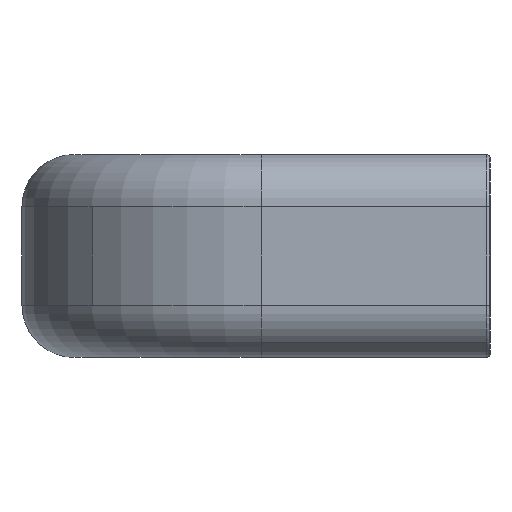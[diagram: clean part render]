
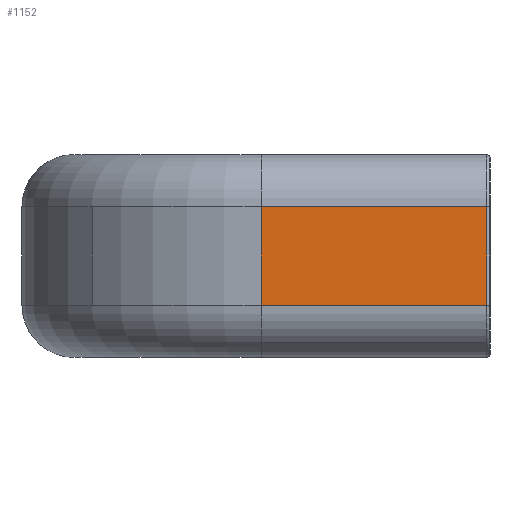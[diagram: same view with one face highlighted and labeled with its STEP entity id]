
A CAD part, left-side view. The second image highlights one B-rep face of the part: STEP entity #1152.
In plain terms, the highlighted planar face has unit normal (-1, 0, 0).
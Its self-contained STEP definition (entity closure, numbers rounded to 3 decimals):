
#896=CARTESIAN_POINT('',(-130.0,0.3,-4.5));
#897=VERTEX_POINT('',#896);
#905=CARTESIAN_POINT('',(-130.0,22.,-4.5));
#906=VERTEX_POINT('',#905);
#907=CARTESIAN_POINT('',(-130.0,22.,-4.5));
#908=DIRECTION('',(0.0,-1.0,0.0));
#909=VECTOR('',#908,21.7);
#910=LINE('',#907,#909);
#911=EDGE_CURVE('',#906,#897,#910,.T.);
#985=CARTESIAN_POINT('',(-130.0,22.,5.));
#986=VERTEX_POINT('',#985);
#987=CARTESIAN_POINT('',(-130.0,22.,-4.5));
#988=DIRECTION('',(0.0,0.0,1.0));
#989=VECTOR('',#988,9.5);
#990=LINE('',#987,#989);
#991=EDGE_CURVE('',#906,#986,#990,.T.);
#1129=CARTESIAN_POINT('',(-130.0,-0.785,5.475));
#1130=DIRECTION('',(1.0,0.0,0.0));
#1131=DIRECTION('',(0.0,0.0,-1.0));
#1132=AXIS2_PLACEMENT_3D('',#1129,#1130,#1131);
#1133=PLANE('',#1132);
#1134=ORIENTED_EDGE('',*,*,#911,.T.);
#1135=CARTESIAN_POINT('',(-130.0,0.3,5.));
#1136=VERTEX_POINT('',#1135);
#1137=CARTESIAN_POINT('',(-130.0,0.3,-4.5));
#1138=DIRECTION('',(0.0,0.0,1.0));
#1139=VECTOR('',#1138,9.5);
#1140=LINE('',#1137,#1139);
#1141=EDGE_CURVE('',#897,#1136,#1140,.T.);
#1142=ORIENTED_EDGE('',*,*,#1141,.T.);
#1143=CARTESIAN_POINT('',(-130.0,22.,5.));
#1144=DIRECTION('',(0.0,-1.0,0.0));
#1145=VECTOR('',#1144,21.7);
#1146=LINE('',#1143,#1145);
#1147=EDGE_CURVE('',#986,#1136,#1146,.T.);
#1148=ORIENTED_EDGE('',*,*,#1147,.F.);
#1149=ORIENTED_EDGE('',*,*,#991,.F.);
#1150=EDGE_LOOP('',(#1134,#1142,#1148,#1149));
#1151=FACE_OUTER_BOUND('',#1150,.T.);
#1152=ADVANCED_FACE('',(#1151),#1133,.F.);
